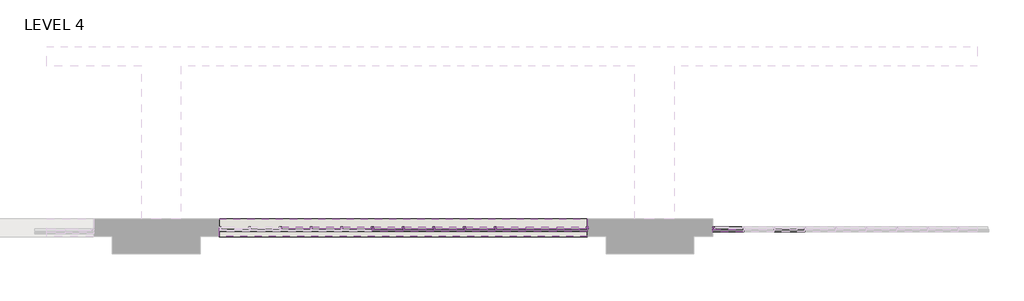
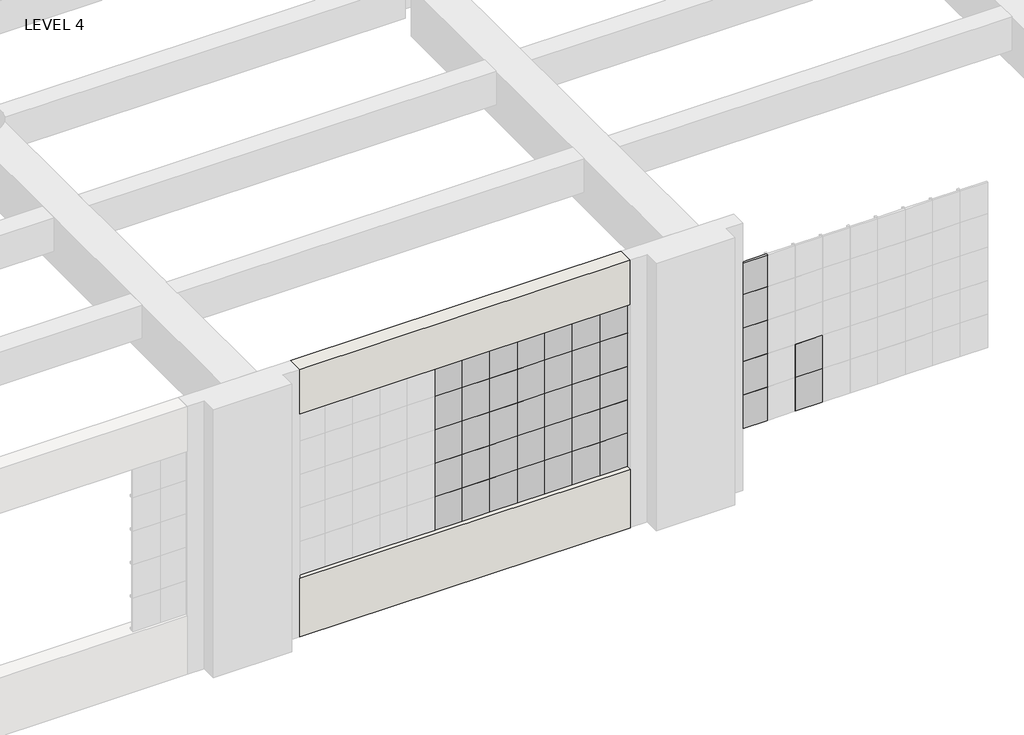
# One storey, part 6 of 26: 81 members, 47 plates, 2 walls.
"""IFC4 building model written with IfcOpenShell, lengths in millimetres."""

from ifc_helpers import new_model, si_unit, frame, origin, origin_with_axes, place, context, project, spatial, polyline, outline, extrude, transform, mapped, element, save
from components import member_038dcf1c, member_d9fec558, member_3d4b608b, member_3c10d71f, member_653bb31e, member_9ec6e97d, member_643a3807, member_ec43e15b, member_6c57b699, member_0f6da5c5, member_0e6c94ff, system_panel_glazed_ab35d819, system_panel_glazed_ede9580b, system_panel_glazed_418eb6cd, system_panel_glazed_f8ef8577

model = new_model("IFC4")

# Units and contexts
model_context = context("Model", 3, world=origin())
ifc_project = project(units=[si_unit("LENGTHUNIT", "METRE", prefix="MILLI")], contexts=[model_context])

# Site, building, storey
site = spatial("IfcSite", under=ifc_project)
building = spatial("IfcBuilding", under=site)
storey = spatial("IfcBuildingStorey", under=building, Name="LEVEL 4", Elevation=0.0)

# Members
placement = place(None, origin())
member_shape = member_038dcf1c(model_context)
element("IfcMember", 1, ObjectType="Circular Mullion : 1 1/4\" Square", at=placement, inside=storey, context=model_context, shape_type="MappedRepresentation", body=[
    mapped(member_shape, transform((-25206.545635, 87322.5091334, 2628.9), x_axis=(-1.0, 0.0, 0.0), y_axis=(0.0, -1.0, 0.0), z_axis=(0.0, 0.0, 1.0))),
])
element("IfcMember", 2, ObjectType="Circular Mullion : 1 1/4\" Square", at=placement, inside=storey, context=model_context, shape_type="MappedRepresentation", body=[
    mapped(member_shape, transform((-25206.545635, 87322.5091334, 2171.7), x_axis=(-1.0, 0.0, 0.0), y_axis=(0.0, -1.0, 0.0), z_axis=(0.0, 0.0, 1.0))),
])
element("IfcMember", 3, ObjectType="Circular Mullion : 1 1/4\" Square", at=placement, inside=storey, context=model_context, shape_type="MappedRepresentation", body=[
    mapped(member_shape, transform((-25206.545635, 87322.5091334, 1714.5), x_axis=(-1.0, 0.0, 0.0), y_axis=(0.0, -1.0, 0.0), z_axis=(0.0, 0.0, 1.0))),
])
element("IfcMember", 4, ObjectType="Circular Mullion : 1 1/4\" Square", at=placement, inside=storey, context=model_context, shape_type="MappedRepresentation", body=[
    mapped(member_shape, transform((-25206.545635, 87322.5091334, 1257.3), x_axis=(-1.0, 0.0, 0.0), y_axis=(0.0, -1.0, 0.0), z_axis=(0.0, 0.0, 1.0))),
])
member_2_shape = member_d9fec558(model_context)
element("IfcMember", 5, ObjectType="Circular Mullion : 1 1/4\" Square", at=placement, inside=storey, context=model_context, shape_type="MappedRepresentation", body=[
    mapped(member_2_shape, transform((-26663.3419523, 87323.1590237, 2628.9), x_axis=(1.0, 0.0, 0.0), y_axis=(0.0, -1.0, 0.0), z_axis=(0.0, 0.0, -1.0))),
])
element("IfcMember", 6, ObjectType="Circular Mullion : 1 1/4\" Square", at=placement, inside=storey, context=model_context, shape_type="MappedRepresentation", body=[
    mapped(member_2_shape, transform((-28796.9419523, 87323.1590237, 2628.9), x_axis=(1.0, 0.0, 0.0), y_axis=(0.0, -1.0, 0.0), z_axis=(0.0, 0.0, -1.0))),
])
element("IfcMember", 7, ObjectType="Circular Mullion : 1 1/4\" Square", at=placement, inside=storey, context=model_context, shape_type="MappedRepresentation", body=[
    mapped(member_2_shape, transform((-28441.3419523, 87323.1590237, 2628.9), x_axis=(1.0, 0.0, 0.0), y_axis=(0.0, -1.0, 0.0), z_axis=(0.0, 0.0, -1.0))),
])
element("IfcMember", 8, ObjectType="Circular Mullion : 1 1/4\" Square", at=placement, inside=storey, context=model_context, shape_type="MappedRepresentation", body=[
    mapped(member_2_shape, transform((-28085.7419523, 87323.1590237, 2628.9), x_axis=(1.0, 0.0, 0.0), y_axis=(0.0, -1.0, 0.0), z_axis=(0.0, 0.0, -1.0))),
])
element("IfcMember", 9, ObjectType="Circular Mullion : 1 1/4\" Square", at=placement, inside=storey, context=model_context, shape_type="MappedRepresentation", body=[
    mapped(member_2_shape, transform((-27730.1419523, 87323.1590237, 2628.9), x_axis=(1.0, 0.0, 0.0), y_axis=(0.0, -1.0, 0.0), z_axis=(0.0, 0.0, -1.0))),
])
member_3_shape = member_3d4b608b(model_context)
element("IfcMember", 10, ObjectType="Circular Mullion : 1 1/4\" Square", at=placement, inside=storey, context=model_context, shape_type="MappedRepresentation", body=[
    mapped(member_3_shape, transform((-26663.3419523, 87323.1590237, 2171.7), x_axis=(1.0, 0.0, 0.0), y_axis=(0.0, -1.0, 0.0), z_axis=(0.0, 0.0, -1.0))),
])
element("IfcMember", 11, ObjectType="Circular Mullion : 1 1/4\" Square", at=placement, inside=storey, context=model_context, shape_type="MappedRepresentation", body=[
    mapped(member_3_shape, transform((-26663.3419523, 87323.1590237, 1714.5), x_axis=(1.0, 0.0, 0.0), y_axis=(0.0, -1.0, 0.0), z_axis=(0.0, 0.0, -1.0))),
])
element("IfcMember", 12, ObjectType="Circular Mullion : 1 1/4\" Square", at=placement, inside=storey, context=model_context, shape_type="MappedRepresentation", body=[
    mapped(member_3_shape, transform((-26663.3419523, 87323.1590237, 1257.3), x_axis=(1.0, 0.0, 0.0), y_axis=(0.0, -1.0, 0.0), z_axis=(0.0, 0.0, -1.0))),
])
element("IfcMember", 13, ObjectType="Circular Mullion : 1 1/4\" Square", at=placement, inside=storey, context=model_context, shape_type="MappedRepresentation", body=[
    mapped(member_3_shape, transform((-29152.5419523, 87323.1590237, 1714.5), x_axis=(1.0, 0.0, 0.0), y_axis=(0.0, -1.0, 0.0), z_axis=(0.0, 0.0, -1.0))),
])
element("IfcMember", 14, ObjectType="Circular Mullion : 1 1/4\" Square", at=placement, inside=storey, context=model_context, shape_type="MappedRepresentation", body=[
    mapped(member_3_shape, transform((-29152.5419523, 87323.1590237, 1257.3), x_axis=(1.0, 0.0, 0.0), y_axis=(0.0, -1.0, 0.0), z_axis=(0.0, 0.0, -1.0))),
])
element("IfcMember", 15, ObjectType="Circular Mullion : 1 1/4\" Square", at=placement, inside=storey, context=model_context, shape_type="MappedRepresentation", body=[
    mapped(member_3_shape, transform((-28796.9419523, 87323.1590237, 2171.7), x_axis=(1.0, 0.0, 0.0), y_axis=(0.0, -1.0, 0.0), z_axis=(0.0, 0.0, -1.0))),
])
element("IfcMember", 16, ObjectType="Circular Mullion : 1 1/4\" Square", at=placement, inside=storey, context=model_context, shape_type="MappedRepresentation", body=[
    mapped(member_3_shape, transform((-28796.9419523, 87323.1590237, 1714.5), x_axis=(1.0, 0.0, 0.0), y_axis=(0.0, -1.0, 0.0), z_axis=(0.0, 0.0, -1.0))),
])
element("IfcMember", 17, ObjectType="Circular Mullion : 1 1/4\" Square", at=placement, inside=storey, context=model_context, shape_type="MappedRepresentation", body=[
    mapped(member_3_shape, transform((-28796.9419523, 87323.1590237, 1257.3), x_axis=(1.0, 0.0, 0.0), y_axis=(0.0, -1.0, 0.0), z_axis=(0.0, 0.0, -1.0))),
])
element("IfcMember", 18, ObjectType="Circular Mullion : 1 1/4\" Square", at=placement, inside=storey, context=model_context, shape_type="MappedRepresentation", body=[
    mapped(member_3_shape, transform((-28441.3419523, 87323.1590237, 2171.7), x_axis=(1.0, 0.0, 0.0), y_axis=(0.0, -1.0, 0.0), z_axis=(0.0, 0.0, -1.0))),
])
element("IfcMember", 19, ObjectType="Circular Mullion : 1 1/4\" Square", at=placement, inside=storey, context=model_context, shape_type="MappedRepresentation", body=[
    mapped(member_3_shape, transform((-28441.3419523, 87323.1590237, 1714.5), x_axis=(1.0, 0.0, 0.0), y_axis=(0.0, -1.0, 0.0), z_axis=(0.0, 0.0, -1.0))),
])
element("IfcMember", 20, ObjectType="Circular Mullion : 1 1/4\" Square", at=placement, inside=storey, context=model_context, shape_type="MappedRepresentation", body=[
    mapped(member_3_shape, transform((-28441.3419523, 87323.1590237, 1257.3), x_axis=(1.0, 0.0, 0.0), y_axis=(0.0, -1.0, 0.0), z_axis=(0.0, 0.0, -1.0))),
])
element("IfcMember", 21, ObjectType="Circular Mullion : 1 1/4\" Square", at=placement, inside=storey, context=model_context, shape_type="MappedRepresentation", body=[
    mapped(member_3_shape, transform((-28085.7419523, 87323.1590237, 2171.7), x_axis=(1.0, 0.0, 0.0), y_axis=(0.0, -1.0, 0.0), z_axis=(0.0, 0.0, -1.0))),
])
element("IfcMember", 22, ObjectType="Circular Mullion : 1 1/4\" Square", at=placement, inside=storey, context=model_context, shape_type="MappedRepresentation", body=[
    mapped(member_3_shape, transform((-28085.7419523, 87323.1590237, 1714.5), x_axis=(1.0, 0.0, 0.0), y_axis=(0.0, -1.0, 0.0), z_axis=(0.0, 0.0, -1.0))),
])
element("IfcMember", 23, ObjectType="Circular Mullion : 1 1/4\" Square", at=placement, inside=storey, context=model_context, shape_type="MappedRepresentation", body=[
    mapped(member_3_shape, transform((-28085.7419523, 87323.1590237, 1257.3), x_axis=(1.0, 0.0, 0.0), y_axis=(0.0, -1.0, 0.0), z_axis=(0.0, 0.0, -1.0))),
])
element("IfcMember", 24, ObjectType="Circular Mullion : 1 1/4\" Square", at=placement, inside=storey, context=model_context, shape_type="MappedRepresentation", body=[
    mapped(member_3_shape, transform((-27730.1419523, 87323.1590237, 2171.7), x_axis=(1.0, 0.0, 0.0), y_axis=(0.0, -1.0, 0.0), z_axis=(0.0, 0.0, -1.0))),
])
element("IfcMember", 25, ObjectType="Circular Mullion : 1 1/4\" Square", at=placement, inside=storey, context=model_context, shape_type="MappedRepresentation", body=[
    mapped(member_3_shape, transform((-27730.1419523, 87323.1590237, 1714.5), x_axis=(1.0, 0.0, 0.0), y_axis=(0.0, -1.0, 0.0), z_axis=(0.0, 0.0, -1.0))),
])
element("IfcMember", 26, ObjectType="Circular Mullion : 1 1/4\" Square", at=placement, inside=storey, context=model_context, shape_type="MappedRepresentation", body=[
    mapped(member_3_shape, transform((-27730.1419523, 87323.1590237, 1257.3), x_axis=(1.0, 0.0, 0.0), y_axis=(0.0, -1.0, 0.0), z_axis=(0.0, 0.0, -1.0))),
])
member_4_shape = member_3c10d71f(model_context)
element("IfcMember", 27, ObjectType="Circular Mullion : 1 1/4\" Square", at=placement, inside=storey, context=model_context, shape_type="MappedRepresentation", body=[
    mapped(member_4_shape, transform((-28809.6419523, 87323.1590237, 3060.7), x_axis=(0.0, 0.0, 1.0), y_axis=(0.0, -1.0, 0.0), z_axis=(1.0, 0.0, 0.0))),
])
element("IfcMember", 28, ObjectType="Circular Mullion : 1 1/4\" Square", at=placement, inside=storey, context=model_context, shape_type="MappedRepresentation", body=[
    mapped(member_4_shape, transform((-28454.0419523, 87323.1590237, 3060.7), x_axis=(0.0, 0.0, 1.0), y_axis=(0.0, -1.0, 0.0), z_axis=(1.0, 0.0, 0.0))),
])
element("IfcMember", 29, ObjectType="Circular Mullion : 1 1/4\" Square", at=placement, inside=storey, context=model_context, shape_type="MappedRepresentation", body=[
    mapped(member_4_shape, transform((-28098.4419523, 87323.1590237, 3060.7), x_axis=(0.0, 0.0, 1.0), y_axis=(0.0, -1.0, 0.0), z_axis=(1.0, 0.0, 0.0))),
])
element("IfcMember", 30, ObjectType="Circular Mullion : 1 1/4\" Square", at=placement, inside=storey, context=model_context, shape_type="MappedRepresentation", body=[
    mapped(member_4_shape, transform((-27742.8419523, 87323.1590237, 3060.7), x_axis=(0.0, 0.0, 1.0), y_axis=(0.0, -1.0, 0.0), z_axis=(1.0, 0.0, 0.0))),
])
member_5_shape = member_653bb31e(model_context)
element("IfcMember", 31, ObjectType="Circular Mullion : 1 1/4\" Square", at=placement, inside=storey, context=model_context, shape_type="MappedRepresentation", body=[
    mapped(member_5_shape, transform((-29520.8419523, 87323.1590237, 2628.9), x_axis=(0.0, 0.0, 1.0), y_axis=(0.0, -1.0, 0.0), z_axis=(1.0, 0.0, 0.0))),
])
element("IfcMember", 32, ObjectType="Circular Mullion : 1 1/4\" Square", at=placement, inside=storey, context=model_context, shape_type="MappedRepresentation", body=[
    mapped(member_5_shape, transform((-29876.4419523, 87323.1590237, 2628.9), x_axis=(0.0, 0.0, 1.0), y_axis=(0.0, -1.0, 0.0), z_axis=(1.0, 0.0, 0.0))),
])
element("IfcMember", 33, ObjectType="Circular Mullion : 1 1/4\" Square", at=placement, inside=storey, context=model_context, shape_type="MappedRepresentation", body=[
    mapped(member_5_shape, transform((-29165.2419523, 87323.1590237, 2628.9), x_axis=(0.0, 0.0, 1.0), y_axis=(0.0, -1.0, 0.0), z_axis=(1.0, 0.0, 0.0))),
])
element("IfcMember", 34, ObjectType="Circular Mullion : 1 1/4\" Square", at=placement, inside=storey, context=model_context, shape_type="MappedRepresentation", body=[
    mapped(member_5_shape, transform((-28809.6419523, 87323.1590237, 2628.9), x_axis=(0.0, 0.0, 1.0), y_axis=(0.0, -1.0, 0.0), z_axis=(1.0, 0.0, 0.0))),
])
element("IfcMember", 35, ObjectType="Circular Mullion : 1 1/4\" Square", at=placement, inside=storey, context=model_context, shape_type="MappedRepresentation", body=[
    mapped(member_5_shape, transform((-28454.0419523, 87323.1590237, 2628.9), x_axis=(0.0, 0.0, 1.0), y_axis=(0.0, -1.0, 0.0), z_axis=(1.0, 0.0, 0.0))),
])
element("IfcMember", 36, ObjectType="Circular Mullion : 1 1/4\" Square", at=placement, inside=storey, context=model_context, shape_type="MappedRepresentation", body=[
    mapped(member_5_shape, transform((-28098.4419523, 87323.1590237, 2628.9), x_axis=(0.0, 0.0, 1.0), y_axis=(0.0, -1.0, 0.0), z_axis=(1.0, 0.0, 0.0))),
])
element("IfcMember", 37, ObjectType="Circular Mullion : 1 1/4\" Square", at=placement, inside=storey, context=model_context, shape_type="MappedRepresentation", body=[
    mapped(member_5_shape, transform((-27742.8419523, 87323.1590237, 2628.9), x_axis=(0.0, 0.0, 1.0), y_axis=(0.0, -1.0, 0.0), z_axis=(1.0, 0.0, 0.0))),
])
element("IfcMember", 38, ObjectType="Circular Mullion : 1 1/4\" Square", at=placement, inside=storey, context=model_context, shape_type="MappedRepresentation", body=[
    mapped(member_5_shape, transform((-29520.8419523, 87323.1590237, 2171.7), x_axis=(0.0, 0.0, 1.0), y_axis=(0.0, -1.0, 0.0), z_axis=(1.0, 0.0, 0.0))),
])
element("IfcMember", 39, ObjectType="Circular Mullion : 1 1/4\" Square", at=placement, inside=storey, context=model_context, shape_type="MappedRepresentation", body=[
    mapped(member_5_shape, transform((-29876.4419523, 87323.1590237, 2171.7), x_axis=(0.0, 0.0, 1.0), y_axis=(0.0, -1.0, 0.0), z_axis=(1.0, 0.0, 0.0))),
])
element("IfcMember", 40, ObjectType="Circular Mullion : 1 1/4\" Square", at=placement, inside=storey, context=model_context, shape_type="MappedRepresentation", body=[
    mapped(member_5_shape, transform((-29165.2419523, 87323.1590237, 2171.7), x_axis=(0.0, 0.0, 1.0), y_axis=(0.0, -1.0, 0.0), z_axis=(1.0, 0.0, 0.0))),
])
element("IfcMember", 41, ObjectType="Circular Mullion : 1 1/4\" Square", at=placement, inside=storey, context=model_context, shape_type="MappedRepresentation", body=[
    mapped(member_5_shape, transform((-28809.6419523, 87323.1590237, 2171.7), x_axis=(0.0, 0.0, 1.0), y_axis=(0.0, -1.0, 0.0), z_axis=(1.0, 0.0, 0.0))),
])
element("IfcMember", 42, ObjectType="Circular Mullion : 1 1/4\" Square", at=placement, inside=storey, context=model_context, shape_type="MappedRepresentation", body=[
    mapped(member_5_shape, transform((-28454.0419523, 87323.1590237, 2171.7), x_axis=(0.0, 0.0, 1.0), y_axis=(0.0, -1.0, 0.0), z_axis=(1.0, 0.0, 0.0))),
])
element("IfcMember", 43, ObjectType="Circular Mullion : 1 1/4\" Square", at=placement, inside=storey, context=model_context, shape_type="MappedRepresentation", body=[
    mapped(member_5_shape, transform((-28098.4419523, 87323.1590237, 2171.7), x_axis=(0.0, 0.0, 1.0), y_axis=(0.0, -1.0, 0.0), z_axis=(1.0, 0.0, 0.0))),
])
element("IfcMember", 44, ObjectType="Circular Mullion : 1 1/4\" Square", at=placement, inside=storey, context=model_context, shape_type="MappedRepresentation", body=[
    mapped(member_5_shape, transform((-27742.8419523, 87323.1590237, 2171.7), x_axis=(0.0, 0.0, 1.0), y_axis=(0.0, -1.0, 0.0), z_axis=(1.0, 0.0, 0.0))),
])
element("IfcMember", 45, ObjectType="Circular Mullion : 1 1/4\" Square", at=placement, inside=storey, context=model_context, shape_type="MappedRepresentation", body=[
    mapped(member_5_shape, transform((-29520.8419523, 87323.1590237, 1714.5), x_axis=(0.0, 0.0, 1.0), y_axis=(0.0, -1.0, 0.0), z_axis=(1.0, 0.0, 0.0))),
])
element("IfcMember", 46, ObjectType="Circular Mullion : 1 1/4\" Square", at=placement, inside=storey, context=model_context, shape_type="MappedRepresentation", body=[
    mapped(member_5_shape, transform((-29876.4419523, 87323.1590237, 1714.5), x_axis=(0.0, 0.0, 1.0), y_axis=(0.0, -1.0, 0.0), z_axis=(1.0, 0.0, 0.0))),
])
element("IfcMember", 47, ObjectType="Circular Mullion : 1 1/4\" Square", at=placement, inside=storey, context=model_context, shape_type="MappedRepresentation", body=[
    mapped(member_5_shape, transform((-29165.2419523, 87323.1590237, 1714.5), x_axis=(0.0, 0.0, 1.0), y_axis=(0.0, -1.0, 0.0), z_axis=(1.0, 0.0, 0.0))),
])
element("IfcMember", 48, ObjectType="Circular Mullion : 1 1/4\" Square", at=placement, inside=storey, context=model_context, shape_type="MappedRepresentation", body=[
    mapped(member_5_shape, transform((-28809.6419523, 87323.1590237, 1714.5), x_axis=(0.0, 0.0, 1.0), y_axis=(0.0, -1.0, 0.0), z_axis=(1.0, 0.0, 0.0))),
])
element("IfcMember", 49, ObjectType="Circular Mullion : 1 1/4\" Square", at=placement, inside=storey, context=model_context, shape_type="MappedRepresentation", body=[
    mapped(member_5_shape, transform((-28454.0419523, 87323.1590237, 1714.5), x_axis=(0.0, 0.0, 1.0), y_axis=(0.0, -1.0, 0.0), z_axis=(1.0, 0.0, 0.0))),
])
element("IfcMember", 50, ObjectType="Circular Mullion : 1 1/4\" Square", at=placement, inside=storey, context=model_context, shape_type="MappedRepresentation", body=[
    mapped(member_5_shape, transform((-28098.4419523, 87323.1590237, 1714.5), x_axis=(0.0, 0.0, 1.0), y_axis=(0.0, -1.0, 0.0), z_axis=(1.0, 0.0, 0.0))),
])
element("IfcMember", 51, ObjectType="Circular Mullion : 1 1/4\" Square", at=placement, inside=storey, context=model_context, shape_type="MappedRepresentation", body=[
    mapped(member_5_shape, transform((-27742.8419523, 87323.1590237, 1714.5), x_axis=(0.0, 0.0, 1.0), y_axis=(0.0, -1.0, 0.0), z_axis=(1.0, 0.0, 0.0))),
])
element("IfcMember", 52, ObjectType="Circular Mullion : 1 1/4\" Square", at=placement, inside=storey, context=model_context, shape_type="MappedRepresentation", body=[
    mapped(member_5_shape, transform((-29520.8419523, 87323.1590237, 1257.3), x_axis=(0.0, 0.0, 1.0), y_axis=(0.0, -1.0, 0.0), z_axis=(1.0, 0.0, 0.0))),
])
element("IfcMember", 53, ObjectType="Circular Mullion : 1 1/4\" Square", at=placement, inside=storey, context=model_context, shape_type="MappedRepresentation", body=[
    mapped(member_5_shape, transform((-29876.4419523, 87323.1590237, 1257.3), x_axis=(0.0, 0.0, 1.0), y_axis=(0.0, -1.0, 0.0), z_axis=(1.0, 0.0, 0.0))),
])
element("IfcMember", 54, ObjectType="Circular Mullion : 1 1/4\" Square", at=placement, inside=storey, context=model_context, shape_type="MappedRepresentation", body=[
    mapped(member_5_shape, transform((-29165.2419523, 87323.1590237, 1257.3), x_axis=(0.0, 0.0, 1.0), y_axis=(0.0, -1.0, 0.0), z_axis=(1.0, 0.0, 0.0))),
])
element("IfcMember", 55, ObjectType="Circular Mullion : 1 1/4\" Square", at=placement, inside=storey, context=model_context, shape_type="MappedRepresentation", body=[
    mapped(member_5_shape, transform((-28809.6419523, 87323.1590237, 1257.3), x_axis=(0.0, 0.0, 1.0), y_axis=(0.0, -1.0, 0.0), z_axis=(1.0, 0.0, 0.0))),
])
element("IfcMember", 56, ObjectType="Circular Mullion : 1 1/4\" Square", at=placement, inside=storey, context=model_context, shape_type="MappedRepresentation", body=[
    mapped(member_5_shape, transform((-28454.0419523, 87323.1590237, 1257.3), x_axis=(0.0, 0.0, 1.0), y_axis=(0.0, -1.0, 0.0), z_axis=(1.0, 0.0, 0.0))),
])
element("IfcMember", 57, ObjectType="Circular Mullion : 1 1/4\" Square", at=placement, inside=storey, context=model_context, shape_type="MappedRepresentation", body=[
    mapped(member_5_shape, transform((-28098.4419523, 87323.1590237, 1257.3), x_axis=(0.0, 0.0, 1.0), y_axis=(0.0, -1.0, 0.0), z_axis=(1.0, 0.0, 0.0))),
])
element("IfcMember", 58, ObjectType="Circular Mullion : 1 1/4\" Square", at=placement, inside=storey, context=model_context, shape_type="MappedRepresentation", body=[
    mapped(member_5_shape, transform((-27742.8419523, 87323.1590237, 1257.3), x_axis=(0.0, 0.0, 1.0), y_axis=(0.0, -1.0, 0.0), z_axis=(1.0, 0.0, 0.0))),
])
member_6_shape = member_9ec6e97d(model_context)
element("IfcMember", 59, ObjectType="Circular Mullion : 1 1/4\" Square", at=placement, inside=storey, context=model_context, shape_type="MappedRepresentation", body=[
    mapped(member_6_shape, transform((-25181.145635, 87322.5091334, 800.1), x_axis=(0.0, 0.0, -1.0), y_axis=(0.0, -1.0, 0.0), z_axis=(-1.0, 0.0, 0.0))),
])
member_7_shape = member_643a3807(model_context)
element("IfcMember", 60, ObjectType="Circular Mullion : 1 1/4\" Square", at=placement, inside=storey, context=model_context, shape_type="MappedRepresentation", body=[
    mapped(member_7_shape, transform((-27018.9419523, 87323.1590237, 2628.9), x_axis=(0.0, 0.0, 1.0), y_axis=(0.0, -1.0, 0.0), z_axis=(1.0, 0.0, 0.0))),
])
element("IfcMember", 61, ObjectType="Circular Mullion : 1 1/4\" Square", at=placement, inside=storey, context=model_context, shape_type="MappedRepresentation", body=[
    mapped(member_7_shape, transform((-27018.9419523, 87323.1590237, 2171.7), x_axis=(0.0, 0.0, 1.0), y_axis=(0.0, -1.0, 0.0), z_axis=(1.0, 0.0, 0.0))),
])
element("IfcMember", 62, ObjectType="Circular Mullion : 1 1/4\" Square", at=placement, inside=storey, context=model_context, shape_type="MappedRepresentation", body=[
    mapped(member_7_shape, transform((-27018.9419523, 87323.1590237, 1714.5), x_axis=(0.0, 0.0, 1.0), y_axis=(0.0, -1.0, 0.0), z_axis=(1.0, 0.0, 0.0))),
])
element("IfcMember", 63, ObjectType="Circular Mullion : 1 1/4\" Square", at=placement, inside=storey, context=model_context, shape_type="MappedRepresentation", body=[
    mapped(member_7_shape, transform((-27018.9419523, 87323.1590237, 1257.3), x_axis=(0.0, 0.0, 1.0), y_axis=(0.0, -1.0, 0.0), z_axis=(1.0, 0.0, 0.0))),
])
member_8_shape = member_ec43e15b(model_context)
element("IfcMember", 64, ObjectType="Circular Mullion : 1 1/4\" Square", at=placement, inside=storey, context=model_context, shape_type="MappedRepresentation", body=[
    mapped(member_8_shape, transform((-27018.9419523, 87323.1590237, 3060.7), x_axis=(0.0, 0.0, 1.0), y_axis=(0.0, -1.0, 0.0), z_axis=(1.0, 0.0, 0.0))),
])
member_9_shape = member_6c57b699(model_context)
element("IfcMember", 65, ObjectType="Circular Mullion : 1 1/4\" Square", at=placement, inside=storey, context=model_context, shape_type="MappedRepresentation", body=[
    mapped(member_9_shape, transform((-27374.5419523, 87323.1590237, 2628.9), x_axis=(0.0, 0.0, 1.0), y_axis=(0.0, -1.0, 0.0), z_axis=(1.0, 0.0, 0.0))),
])
element("IfcMember", 66, ObjectType="Circular Mullion : 1 1/4\" Square", at=placement, inside=storey, context=model_context, shape_type="MappedRepresentation", body=[
    mapped(member_9_shape, transform((-27374.5419523, 87323.1590237, 2171.7), x_axis=(0.0, 0.0, 1.0), y_axis=(0.0, -1.0, 0.0), z_axis=(1.0, 0.0, 0.0))),
])
element("IfcMember", 67, ObjectType="Circular Mullion : 1 1/4\" Square", at=placement, inside=storey, context=model_context, shape_type="MappedRepresentation", body=[
    mapped(member_9_shape, transform((-27374.5419523, 87323.1590237, 1714.5), x_axis=(0.0, 0.0, 1.0), y_axis=(0.0, -1.0, 0.0), z_axis=(1.0, 0.0, 0.0))),
])
element("IfcMember", 68, ObjectType="Circular Mullion : 1 1/4\" Square", at=placement, inside=storey, context=model_context, shape_type="MappedRepresentation", body=[
    mapped(member_9_shape, transform((-27374.5419523, 87323.1590237, 1257.3), x_axis=(0.0, 0.0, 1.0), y_axis=(0.0, -1.0, 0.0), z_axis=(1.0, 0.0, 0.0))),
])
member_10_shape = member_0f6da5c5(model_context)
element("IfcMember", 69, ObjectType="Circular Mullion : 1 1/4\" Square", at=placement, inside=storey, context=model_context, shape_type="MappedRepresentation", body=[
    mapped(member_10_shape, transform((-27374.5419523, 87323.1590237, 3060.7), x_axis=(0.0, 0.0, 1.0), y_axis=(0.0, -1.0, 0.0), z_axis=(1.0, 0.0, 0.0))),
])
element("IfcMember", 70, ObjectType="Circular Mullion : 1 1/4\" Square", at=placement, inside=storey, context=model_context, shape_type="MappedRepresentation", body=[
    mapped(member_10_shape, transform((-26676.0419523, 87323.1590237, 3060.7), x_axis=(0.0, 0.0, 1.0), y_axis=(0.0, -1.0, 0.0), z_axis=(1.0, 0.0, 0.0))),
])
element("IfcMember", 71, ObjectType="Circular Mullion : 1 1/4\" Square", at=placement, inside=storey, context=model_context, shape_type="MappedRepresentation", body=[
    mapped(member_9_shape, transform((-26676.0419523, 87323.1590237, 2628.9), x_axis=(0.0, 0.0, 1.0), y_axis=(0.0, -1.0, 0.0), z_axis=(1.0, 0.0, 0.0))),
])
element("IfcMember", 72, ObjectType="Circular Mullion : 1 1/4\" Square", at=placement, inside=storey, context=model_context, shape_type="MappedRepresentation", body=[
    mapped(member_9_shape, transform((-26676.0419523, 87323.1590237, 2171.7), x_axis=(0.0, 0.0, 1.0), y_axis=(0.0, -1.0, 0.0), z_axis=(1.0, 0.0, 0.0))),
])
element("IfcMember", 73, ObjectType="Circular Mullion : 1 1/4\" Square", at=placement, inside=storey, context=model_context, shape_type="MappedRepresentation", body=[
    mapped(member_9_shape, transform((-26676.0419523, 87323.1590237, 1714.5), x_axis=(0.0, 0.0, 1.0), y_axis=(0.0, -1.0, 0.0), z_axis=(1.0, 0.0, 0.0))),
])
element("IfcMember", 74, ObjectType="Circular Mullion : 1 1/4\" Square", at=placement, inside=storey, context=model_context, shape_type="MappedRepresentation", body=[
    mapped(member_9_shape, transform((-26676.0419523, 87323.1590237, 1257.3), x_axis=(0.0, 0.0, 1.0), y_axis=(0.0, -1.0, 0.0), z_axis=(1.0, 0.0, 0.0))),
])
member_11_shape = member_0e6c94ff(model_context)
element("IfcMember", 75, ObjectType="Circular Mullion : 1 1/4\" Square", at=placement, inside=storey, context=model_context, shape_type="MappedRepresentation", body=[
    mapped(member_11_shape, transform((-25206.545635, 87322.5091334, 3060.7), x_axis=(-1.0, 0.0, 0.0), y_axis=(0.0, -1.0, 0.0), z_axis=(0.0, 0.0, 1.0))),
])
element("IfcMember", 76, ObjectType="Circular Mullion : 1 1/4\" Square", at=placement, inside=storey, context=model_context, shape_type="MappedRepresentation", body=[
    mapped(member_3_shape, transform((-26663.3419523, 87323.1590237, 800.1), x_axis=(1.0, 0.0, 0.0), y_axis=(0.0, -1.0, 0.0), z_axis=(0.0, 0.0, -1.0))),
])
element("IfcMember", 77, ObjectType="Circular Mullion : 1 1/4\" Square", at=placement, inside=storey, context=model_context, shape_type="MappedRepresentation", body=[
    mapped(member_3_shape, transform((-29152.5419523, 87323.1590237, 800.1), x_axis=(1.0, 0.0, 0.0), y_axis=(0.0, -1.0, 0.0), z_axis=(0.0, 0.0, -1.0))),
])
element("IfcMember", 78, ObjectType="Circular Mullion : 1 1/4\" Square", at=placement, inside=storey, context=model_context, shape_type="MappedRepresentation", body=[
    mapped(member_3_shape, transform((-28796.9419523, 87323.1590237, 800.1), x_axis=(1.0, 0.0, 0.0), y_axis=(0.0, -1.0, 0.0), z_axis=(0.0, 0.0, -1.0))),
])
element("IfcMember", 79, ObjectType="Circular Mullion : 1 1/4\" Square", at=placement, inside=storey, context=model_context, shape_type="MappedRepresentation", body=[
    mapped(member_3_shape, transform((-28441.3419523, 87323.1590237, 800.1), x_axis=(1.0, 0.0, 0.0), y_axis=(0.0, -1.0, 0.0), z_axis=(0.0, 0.0, -1.0))),
])
element("IfcMember", 80, ObjectType="Circular Mullion : 1 1/4\" Square", at=placement, inside=storey, context=model_context, shape_type="MappedRepresentation", body=[
    mapped(member_3_shape, transform((-28085.7419523, 87323.1590237, 800.1), x_axis=(1.0, 0.0, 0.0), y_axis=(0.0, -1.0, 0.0), z_axis=(0.0, 0.0, -1.0))),
])
element("IfcMember", 81, ObjectType="Circular Mullion : 1 1/4\" Square", at=placement, inside=storey, context=model_context, shape_type="MappedRepresentation", body=[
    mapped(member_3_shape, transform((-27730.1419523, 87323.1590237, 800.1), x_axis=(1.0, 0.0, 0.0), y_axis=(0.0, -1.0, 0.0), z_axis=(0.0, 0.0, -1.0))),
])

# Plates
system_panel_glazed_shape = system_panel_glazed_ab35d819(model_context)
element("IfcPlate", 82, ObjectType="System Panel : Glazed", at=placement, inside=storey, context=model_context, shape_type="MappedRepresentation", body=[
    mapped(system_panel_glazed_shape, transform((-26841.1419523, 87323.1590237, 800.1), x_axis=(1.0, 0.0, 0.0), y_axis=(0.0, 1.0, 0.0), z_axis=(0.0, 0.0, 1.0))),
])
element("IfcPlate", 83, ObjectType="System Panel : Glazed", at=placement, inside=storey, context=model_context, shape_type="MappedRepresentation", body=[
    mapped(system_panel_glazed_shape, transform((-25028.7456348, 87322.5091334, 800.1), x_axis=(1.0, 0.0, 0.0), y_axis=(0.0, 1.0, 0.0), z_axis=(0.0, 0.0, 1.0))),
])
element("IfcPlate", 84, ObjectType="System Panel : Glazed", at=placement, inside=storey, context=model_context, shape_type="MappedRepresentation", body=[
    mapped(system_panel_glazed_shape, transform((-27196.7419523, 87323.1590237, 800.1), x_axis=(1.0, 0.0, 0.0), y_axis=(0.0, 1.0, 0.0), z_axis=(0.0, 0.0, 1.0))),
])
element("IfcPlate", 85, ObjectType="System Panel : Glazed", at=placement, inside=storey, context=model_context, shape_type="MappedRepresentation", body=[
    mapped(system_panel_glazed_shape, transform((-27552.3419523, 87323.1590237, 800.1), x_axis=(1.0, 0.0, 0.0), y_axis=(0.0, 1.0, 0.0), z_axis=(0.0, 0.0, 1.0))),
])
element("IfcPlate", 86, ObjectType="System Panel : Glazed", at=placement, inside=storey, context=model_context, shape_type="MappedRepresentation", body=[
    mapped(system_panel_glazed_shape, transform((-27907.9419523, 87323.1590237, 800.1), x_axis=(1.0, 0.0, 0.0), y_axis=(0.0, 1.0, 0.0), z_axis=(0.0, 0.0, 1.0))),
])
element("IfcPlate", 87, ObjectType="System Panel : Glazed", at=placement, inside=storey, context=model_context, shape_type="MappedRepresentation", body=[
    mapped(system_panel_glazed_shape, transform((-28263.5419523, 87323.1590237, 800.1), x_axis=(1.0, 0.0, 0.0), y_axis=(0.0, 1.0, 0.0), z_axis=(0.0, 0.0, 1.0))),
])
element("IfcPlate", 88, ObjectType="System Panel : Glazed", at=placement, inside=storey, context=model_context, shape_type="MappedRepresentation", body=[
    mapped(system_panel_glazed_shape, transform((-28619.1419523, 87323.1590237, 800.1), x_axis=(1.0, 0.0, 0.0), y_axis=(0.0, 1.0, 0.0), z_axis=(0.0, 0.0, 1.0))),
])
element("IfcPlate", 89, ObjectType="System Panel : Glazed", at=placement, inside=storey, context=model_context, shape_type="MappedRepresentation", body=[
    mapped(system_panel_glazed_shape, transform((-28974.7419523, 87323.1590237, 800.1), x_axis=(1.0, 0.0, 0.0), y_axis=(0.0, 1.0, 0.0), z_axis=(0.0, 0.0, 1.0))),
])
element("IfcPlate", 90, ObjectType="System Panel : Glazed", at=placement, inside=storey, context=model_context, shape_type="MappedRepresentation", body=[
    mapped(system_panel_glazed_shape, transform((-27196.7419523, 87323.1590237, 1257.3), x_axis=(1.0, 0.0, 0.0), y_axis=(0.0, 1.0, 0.0), z_axis=(0.0, 0.0, 1.0))),
])
element("IfcPlate", 91, ObjectType="System Panel : Glazed", at=placement, inside=storey, context=model_context, shape_type="MappedRepresentation", body=[
    mapped(system_panel_glazed_shape, transform((-27552.3419523, 87323.1590237, 1257.3), x_axis=(1.0, 0.0, 0.0), y_axis=(0.0, 1.0, 0.0), z_axis=(0.0, 0.0, 1.0))),
])
element("IfcPlate", 92, ObjectType="System Panel : Glazed", at=placement, inside=storey, context=model_context, shape_type="MappedRepresentation", body=[
    mapped(system_panel_glazed_shape, transform((-27907.9419523, 87323.1590237, 1257.3), x_axis=(1.0, 0.0, 0.0), y_axis=(0.0, 1.0, 0.0), z_axis=(0.0, 0.0, 1.0))),
])
element("IfcPlate", 93, ObjectType="System Panel : Glazed", at=placement, inside=storey, context=model_context, shape_type="MappedRepresentation", body=[
    mapped(system_panel_glazed_shape, transform((-28263.5419523, 87323.1590237, 1257.3), x_axis=(1.0, 0.0, 0.0), y_axis=(0.0, 1.0, 0.0), z_axis=(0.0, 0.0, 1.0))),
])
element("IfcPlate", 94, ObjectType="System Panel : Glazed", at=placement, inside=storey, context=model_context, shape_type="MappedRepresentation", body=[
    mapped(system_panel_glazed_shape, transform((-28619.1419523, 87323.1590237, 1257.3), x_axis=(1.0, 0.0, 0.0), y_axis=(0.0, 1.0, 0.0), z_axis=(0.0, 0.0, 1.0))),
])
element("IfcPlate", 95, ObjectType="System Panel : Glazed", at=placement, inside=storey, context=model_context, shape_type="MappedRepresentation", body=[
    mapped(system_panel_glazed_shape, transform((-28974.7419523, 87323.1590237, 1257.3), x_axis=(1.0, 0.0, 0.0), y_axis=(0.0, 1.0, 0.0), z_axis=(0.0, 0.0, 1.0))),
])
element("IfcPlate", 96, ObjectType="System Panel : Glazed", at=placement, inside=storey, context=model_context, shape_type="MappedRepresentation", body=[
    mapped(system_panel_glazed_shape, transform((-26841.1419523, 87323.1590237, 1257.3), x_axis=(1.0, 0.0, 0.0), y_axis=(0.0, 1.0, 0.0), z_axis=(0.0, 0.0, 1.0))),
])
element("IfcPlate", 97, ObjectType="System Panel : Glazed", at=placement, inside=storey, context=model_context, shape_type="MappedRepresentation", body=[
    mapped(system_panel_glazed_shape, transform((-27196.7419523, 87323.1590237, 1714.5), x_axis=(1.0, 0.0, 0.0), y_axis=(0.0, 1.0, 0.0), z_axis=(0.0, 0.0, 1.0))),
])
element("IfcPlate", 98, ObjectType="System Panel : Glazed", at=placement, inside=storey, context=model_context, shape_type="MappedRepresentation", body=[
    mapped(system_panel_glazed_shape, transform((-27552.3419523, 87323.1590237, 1714.5), x_axis=(1.0, 0.0, 0.0), y_axis=(0.0, 1.0, 0.0), z_axis=(0.0, 0.0, 1.0))),
])
element("IfcPlate", 99, ObjectType="System Panel : Glazed", at=placement, inside=storey, context=model_context, shape_type="MappedRepresentation", body=[
    mapped(system_panel_glazed_shape, transform((-27907.9419523, 87323.1590237, 1714.5), x_axis=(1.0, 0.0, 0.0), y_axis=(0.0, 1.0, 0.0), z_axis=(0.0, 0.0, 1.0))),
])
element("IfcPlate", 100, ObjectType="System Panel : Glazed", at=placement, inside=storey, context=model_context, shape_type="MappedRepresentation", body=[
    mapped(system_panel_glazed_shape, transform((-28263.5419523, 87323.1590237, 1714.5), x_axis=(1.0, 0.0, 0.0), y_axis=(0.0, 1.0, 0.0), z_axis=(0.0, 0.0, 1.0))),
])
element("IfcPlate", 101, ObjectType="System Panel : Glazed", at=placement, inside=storey, context=model_context, shape_type="MappedRepresentation", body=[
    mapped(system_panel_glazed_shape, transform((-28619.1419523, 87323.1590237, 1714.5), x_axis=(1.0, 0.0, 0.0), y_axis=(0.0, 1.0, 0.0), z_axis=(0.0, 0.0, 1.0))),
])
element("IfcPlate", 102, ObjectType="System Panel : Glazed", at=placement, inside=storey, context=model_context, shape_type="MappedRepresentation", body=[
    mapped(system_panel_glazed_shape, transform((-28974.7419523, 87323.1590237, 1714.5), x_axis=(1.0, 0.0, 0.0), y_axis=(0.0, 1.0, 0.0), z_axis=(0.0, 0.0, 1.0))),
])
element("IfcPlate", 103, ObjectType="System Panel : Glazed", at=placement, inside=storey, context=model_context, shape_type="MappedRepresentation", body=[
    mapped(system_panel_glazed_shape, transform((-26841.1419523, 87323.1590237, 1714.5), x_axis=(1.0, 0.0, 0.0), y_axis=(0.0, 1.0, 0.0), z_axis=(0.0, 0.0, 1.0))),
])
element("IfcPlate", 104, ObjectType="System Panel : Glazed", at=placement, inside=storey, context=model_context, shape_type="MappedRepresentation", body=[
    mapped(system_panel_glazed_shape, transform((-27196.7419523, 87323.1590237, 2171.7), x_axis=(1.0, 0.0, 0.0), y_axis=(0.0, 1.0, 0.0), z_axis=(0.0, 0.0, 1.0))),
])
element("IfcPlate", 105, ObjectType="System Panel : Glazed", at=placement, inside=storey, context=model_context, shape_type="MappedRepresentation", body=[
    mapped(system_panel_glazed_shape, transform((-27552.3419523, 87323.1590237, 2171.7), x_axis=(1.0, 0.0, 0.0), y_axis=(0.0, 1.0, 0.0), z_axis=(0.0, 0.0, 1.0))),
])
element("IfcPlate", 106, ObjectType="System Panel : Glazed", at=placement, inside=storey, context=model_context, shape_type="MappedRepresentation", body=[
    mapped(system_panel_glazed_shape, transform((-27907.9419523, 87323.1590237, 2171.7), x_axis=(1.0, 0.0, 0.0), y_axis=(0.0, 1.0, 0.0), z_axis=(0.0, 0.0, 1.0))),
])
element("IfcPlate", 107, ObjectType="System Panel : Glazed", at=placement, inside=storey, context=model_context, shape_type="MappedRepresentation", body=[
    mapped(system_panel_glazed_shape, transform((-28263.5419523, 87323.1590237, 2171.7), x_axis=(1.0, 0.0, 0.0), y_axis=(0.0, 1.0, 0.0), z_axis=(0.0, 0.0, 1.0))),
])
element("IfcPlate", 108, ObjectType="System Panel : Glazed", at=placement, inside=storey, context=model_context, shape_type="MappedRepresentation", body=[
    mapped(system_panel_glazed_shape, transform((-28619.1419523, 87323.1590237, 2171.7), x_axis=(1.0, 0.0, 0.0), y_axis=(0.0, 1.0, 0.0), z_axis=(0.0, 0.0, 1.0))),
])
element("IfcPlate", 109, ObjectType="System Panel : Glazed", at=placement, inside=storey, context=model_context, shape_type="MappedRepresentation", body=[
    mapped(system_panel_glazed_shape, transform((-28974.7419523, 87323.1590237, 2171.7), x_axis=(1.0, 0.0, 0.0), y_axis=(0.0, 1.0, 0.0), z_axis=(0.0, 0.0, 1.0))),
])
element("IfcPlate", 110, ObjectType="System Panel : Glazed", at=placement, inside=storey, context=model_context, shape_type="MappedRepresentation", body=[
    mapped(system_panel_glazed_shape, transform((-26841.1419523, 87323.1590237, 2171.7), x_axis=(1.0, 0.0, 0.0), y_axis=(0.0, 1.0, 0.0), z_axis=(0.0, 0.0, 1.0))),
])
element("IfcPlate", 111, ObjectType="System Panel : Glazed", at=placement, inside=storey, context=model_context, shape_type="MappedRepresentation", body=[
    mapped(system_panel_glazed_shape, transform((-25028.7456348, 87322.5091334, 1257.3), x_axis=(1.0, 0.0, 0.0), y_axis=(0.0, 1.0, 0.0), z_axis=(0.0, 0.0, 1.0))),
])
element("IfcPlate", 112, ObjectType="System Panel : Glazed", at=placement, inside=storey, context=model_context, shape_type="MappedRepresentation", body=[
    mapped(system_panel_glazed_shape, transform((-25028.7456348, 87322.5091334, 1714.5), x_axis=(1.0, 0.0, 0.0), y_axis=(0.0, 1.0, 0.0), z_axis=(0.0, 0.0, 1.0))),
])
element("IfcPlate", 113, ObjectType="System Panel : Glazed", at=placement, inside=storey, context=model_context, shape_type="MappedRepresentation", body=[
    mapped(system_panel_glazed_shape, transform((-25028.7456348, 87322.5091334, 2171.7), x_axis=(1.0, 0.0, 0.0), y_axis=(0.0, 1.0, 0.0), z_axis=(0.0, 0.0, 1.0))),
])
element("IfcPlate", 114, ObjectType="System Panel : Glazed", at=placement, inside=storey, context=model_context, shape_type="MappedRepresentation", body=[
    mapped(system_panel_glazed_shape, transform((-24317.5456347, 87322.5091334, 800.1), x_axis=(1.0, 0.0, 0.0), y_axis=(0.0, 1.0, 0.0), z_axis=(0.0, 0.0, 1.0))),
])
element("IfcPlate", 115, ObjectType="System Panel : Glazed", at=placement, inside=storey, context=model_context, shape_type="MappedRepresentation", body=[
    mapped(system_panel_glazed_shape, transform((-24317.5456347, 87322.5091334, 1257.3), x_axis=(1.0, 0.0, 0.0), y_axis=(0.0, 1.0, 0.0), z_axis=(0.0, 0.0, 1.0))),
])
system_panel_glazed_2_shape = system_panel_glazed_ede9580b(model_context)
element("IfcPlate", 116, ObjectType="System Panel : Glazed", at=placement, inside=storey, context=model_context, shape_type="MappedRepresentation", body=[
    mapped(system_panel_glazed_2_shape, transform((-26662.0187937, 87323.1590237, 800.1), x_axis=(1.0, 0.0, 0.0), y_axis=(0.0, 1.0, 0.0), z_axis=(0.0, 0.0, 1.0))),
])
element("IfcPlate", 117, ObjectType="System Panel : Glazed", at=placement, inside=storey, context=model_context, shape_type="MappedRepresentation", body=[
    mapped(system_panel_glazed_2_shape, transform((-26662.0187937, 87323.1590237, 1257.3), x_axis=(1.0, 0.0, 0.0), y_axis=(0.0, 1.0, 0.0), z_axis=(0.0, 0.0, 1.0))),
])
element("IfcPlate", 118, ObjectType="System Panel : Glazed", at=placement, inside=storey, context=model_context, shape_type="MappedRepresentation", body=[
    mapped(system_panel_glazed_2_shape, transform((-26662.0187937, 87323.1590237, 1714.5), x_axis=(1.0, 0.0, 0.0), y_axis=(0.0, 1.0, 0.0), z_axis=(0.0, 0.0, 1.0))),
])
element("IfcPlate", 119, ObjectType="System Panel : Glazed", at=placement, inside=storey, context=model_context, shape_type="MappedRepresentation", body=[
    mapped(system_panel_glazed_2_shape, transform((-26662.0187937, 87323.1590237, 2171.7), x_axis=(1.0, 0.0, 0.0), y_axis=(0.0, 1.0, 0.0), z_axis=(0.0, 0.0, 1.0))),
])
system_panel_glazed_3_shape = system_panel_glazed_418eb6cd(model_context)
element("IfcPlate", 120, ObjectType="System Panel : Glazed", at=placement, inside=storey, context=model_context, shape_type="MappedRepresentation", body=[
    mapped(system_panel_glazed_3_shape, transform((-27196.7419523, 87323.1590237, 2628.9), x_axis=(1.0, 0.0, 0.0), y_axis=(0.0, 1.0, 0.0), z_axis=(0.0, 0.0, 1.0))),
])
element("IfcPlate", 121, ObjectType="System Panel : Glazed", at=placement, inside=storey, context=model_context, shape_type="MappedRepresentation", body=[
    mapped(system_panel_glazed_3_shape, transform((-27552.3419523, 87323.1590237, 2628.9), x_axis=(1.0, 0.0, 0.0), y_axis=(0.0, 1.0, 0.0), z_axis=(0.0, 0.0, 1.0))),
])
element("IfcPlate", 122, ObjectType="System Panel : Glazed", at=placement, inside=storey, context=model_context, shape_type="MappedRepresentation", body=[
    mapped(system_panel_glazed_3_shape, transform((-27907.9419523, 87323.1590237, 2628.9), x_axis=(1.0, 0.0, 0.0), y_axis=(0.0, 1.0, 0.0), z_axis=(0.0, 0.0, 1.0))),
])
element("IfcPlate", 123, ObjectType="System Panel : Glazed", at=placement, inside=storey, context=model_context, shape_type="MappedRepresentation", body=[
    mapped(system_panel_glazed_3_shape, transform((-28263.5419523, 87323.1590237, 2628.9), x_axis=(1.0, 0.0, 0.0), y_axis=(0.0, 1.0, 0.0), z_axis=(0.0, 0.0, 1.0))),
])
element("IfcPlate", 124, ObjectType="System Panel : Glazed", at=placement, inside=storey, context=model_context, shape_type="MappedRepresentation", body=[
    mapped(system_panel_glazed_3_shape, transform((-28619.1419523, 87323.1590237, 2628.9), x_axis=(1.0, 0.0, 0.0), y_axis=(0.0, 1.0, 0.0), z_axis=(0.0, 0.0, 1.0))),
])
element("IfcPlate", 125, ObjectType="System Panel : Glazed", at=placement, inside=storey, context=model_context, shape_type="MappedRepresentation", body=[
    mapped(system_panel_glazed_3_shape, transform((-28974.7419523, 87323.1590237, 2628.9), x_axis=(1.0, 0.0, 0.0), y_axis=(0.0, 1.0, 0.0), z_axis=(0.0, 0.0, 1.0))),
])
element("IfcPlate", 126, ObjectType="System Panel : Glazed", at=placement, inside=storey, context=model_context, shape_type="MappedRepresentation", body=[
    mapped(system_panel_glazed_3_shape, transform((-26841.1419523, 87323.1590237, 2628.9), x_axis=(1.0, 0.0, 0.0), y_axis=(0.0, 1.0, 0.0), z_axis=(0.0, 0.0, 1.0))),
])
element("IfcPlate", 127, ObjectType="System Panel : Glazed", at=placement, inside=storey, context=model_context, shape_type="MappedRepresentation", body=[
    mapped(system_panel_glazed_3_shape, transform((-25028.7456348, 87322.5091334, 2628.9), x_axis=(1.0, 0.0, 0.0), y_axis=(0.0, 1.0, 0.0), z_axis=(0.0, 0.0, 1.0))),
])
system_panel_glazed_4_shape = system_panel_glazed_f8ef8577(model_context)
element("IfcPlate", 128, ObjectType="System Panel : Glazed", at=placement, inside=storey, context=model_context, shape_type="MappedRepresentation", body=[
    mapped(system_panel_glazed_4_shape, transform((-26662.0187937, 87323.1590237, 2628.9), x_axis=(1.0, 0.0, 0.0), y_axis=(0.0, 1.0, 0.0), z_axis=(0.0, 0.0, 1.0))),
])

# Walls
element("IfcWall", 129, ObjectType="_Generic - 8 1/4\"", at=placement, inside=storey, context=model_context, shape_type="SweptSolid", body=[
    extrude(outline(polyline([(-26660.695635, 87218.3840237), (-30930.5419526, 87218.3840237), (-30930.5419526, 87427.9340237), (-26660.695635, 87427.9340237), (-26660.695635, 87218.3840237)])), origin_with_axes(), (0.0, 0.0, 1.0), 800.1),
])
element("IfcWall", 130, ObjectType="_Generic - 8\"", at=placement, inside=storey, context=model_context, shape_type="SweptSolid", body=[
    extrude(outline(polyline([(-26660.695635, 87221.5590237), (-30930.5419526, 87221.5590237), (-30930.5419526, 87424.7590237), (-26660.695635, 87424.7590237), (-26660.695635, 87221.5590237)])), frame((0.0, 0.0, 3048.0), z_axis=(0.0, 0.0, 1.0), x_axis=(1.0, 0.0, 0.0)), (0.0, 0.0, 1.0), 609.6),
])

save(model, "model.ifc")
